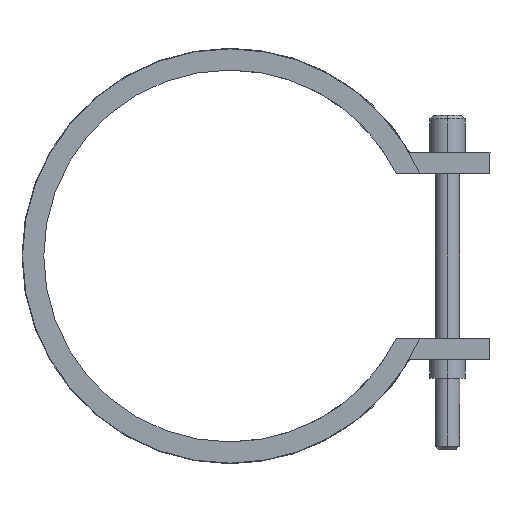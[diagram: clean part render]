
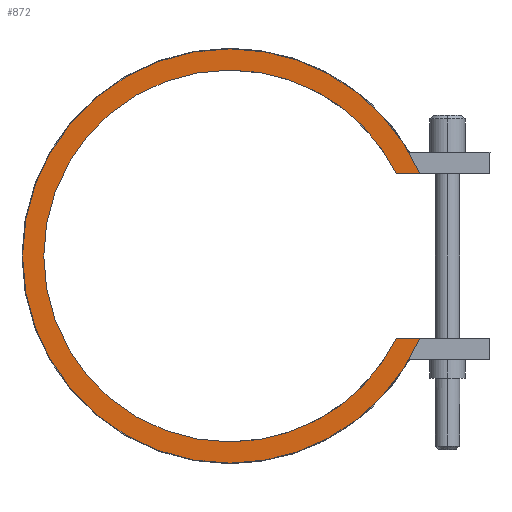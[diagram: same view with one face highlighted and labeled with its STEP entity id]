
A CAD part, left-side view. The second image highlights one B-rep face of the part: STEP entity #872.
In plain terms, the highlighted planar face has unit normal (-1, 0, 0).
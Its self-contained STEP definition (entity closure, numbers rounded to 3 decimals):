
#410=CARTESIAN_POINT('Vertex',(-30.,-31.381,-15.5)) ;
#413=CARTESIAN_POINT('Line Origine',(-30.,-33.584,-15.5)) ;
#417=CARTESIAN_POINT('Vertex',(-30.,-35.788,-15.5)) ;
#463=CARTESIAN_POINT('Vertex',(-30.,0.,-39.)) ;
#466=CARTESIAN_POINT('Axis2P3D Location',(-30.,0.,0.)) ;
#487=CARTESIAN_POINT('Vertex',(-30.,0.,39.)) ;
#490=CARTESIAN_POINT('Axis2P3D Location',(-30.,0.,0.)) ;
#502=CARTESIAN_POINT('Axis2P3D Location',(-30.,0.,0.)) ;
#506=CARTESIAN_POINT('Vertex',(-30.,-35.788,15.5)) ;
#526=CARTESIAN_POINT('Line Origine',(-30.,-33.584,15.5)) ;
#530=CARTESIAN_POINT('Vertex',(-30.,-31.381,15.5)) ;
#818=CARTESIAN_POINT('Axis2P3D Location',(-30.,0.,0.)) ;
#822=CARTESIAN_POINT('Vertex',(-30.,0.,-35.)) ;
#845=CARTESIAN_POINT('Axis2P3D Location',(-30.,0.,0.)) ;
#850=CARTESIAN_POINT('Axis2P3D Location',(-30.,0.,0.)) ;
#854=CARTESIAN_POINT('Vertex',(-30.,0.,35.)) ;
#857=CARTESIAN_POINT('Axis2P3D Location',(-30.,0.,0.)) ;
#414=DIRECTION('Vector Direction',(0.,1.,0.)) ;
#467=DIRECTION('Axis2P3D Direction',(1.,0.,-0.)) ;
#491=DIRECTION('Axis2P3D Direction',(1.,0.,-0.)) ;
#503=DIRECTION('Axis2P3D Direction',(1.,0.,-0.)) ;
#527=DIRECTION('Vector Direction',(0.,-1.,0.)) ;
#819=DIRECTION('Axis2P3D Direction',(1.,0.,-0.)) ;
#846=DIRECTION('Axis2P3D Direction',(1.,0.,0.)) ;
#847=DIRECTION('Axis2P3D XDirection',(0.,0.,-1.)) ;
#851=DIRECTION('Axis2P3D Direction',(1.,0.,0.)) ;
#858=DIRECTION('Axis2P3D Direction',(1.,0.,0.)) ;
#468=AXIS2_PLACEMENT_3D('Circle Axis2P3D',#466,#467,$) ;
#492=AXIS2_PLACEMENT_3D('Circle Axis2P3D',#490,#491,$) ;
#504=AXIS2_PLACEMENT_3D('Circle Axis2P3D',#502,#503,$) ;
#820=AXIS2_PLACEMENT_3D('Circle Axis2P3D',#818,#819,$) ;
#848=AXIS2_PLACEMENT_3D('Plane Axis2P3D',#845,#846,#847) ;
#852=AXIS2_PLACEMENT_3D('Circle Axis2P3D',#850,#851,$) ;
#859=AXIS2_PLACEMENT_3D('Circle Axis2P3D',#857,#858,$) ;
#863=ORIENTED_EDGE('',*,*,#419,.T.) ;
#864=ORIENTED_EDGE('',*,*,#824,.T.) ;
#865=ORIENTED_EDGE('',*,*,#856,.T.) ;
#866=ORIENTED_EDGE('',*,*,#861,.T.) ;
#867=ORIENTED_EDGE('',*,*,#532,.T.) ;
#868=ORIENTED_EDGE('',*,*,#508,.F.) ;
#869=ORIENTED_EDGE('',*,*,#494,.F.) ;
#870=ORIENTED_EDGE('',*,*,#470,.F.) ;
#415=VECTOR('Line Direction',#414,1.) ;
#528=VECTOR('Line Direction',#527,1.) ;
#872=ADVANCED_FACE('14070060',(#871),#849,.F.) ;
#469=CIRCLE('generated circle',#468,39.) ;
#493=CIRCLE('generated circle',#492,39.) ;
#505=CIRCLE('generated circle',#504,39.) ;
#821=CIRCLE('generated circle',#820,35.) ;
#853=CIRCLE('generated circle',#852,35.) ;
#860=CIRCLE('generated circle',#859,35.) ;
#419=EDGE_CURVE('',#418,#411,#416,.T.) ;
#470=EDGE_CURVE('',#418,#464,#469,.T.) ;
#494=EDGE_CURVE('',#464,#488,#493,.T.) ;
#508=EDGE_CURVE('',#488,#507,#505,.T.) ;
#532=EDGE_CURVE('',#531,#507,#529,.T.) ;
#824=EDGE_CURVE('',#411,#823,#821,.T.) ;
#856=EDGE_CURVE('',#823,#855,#853,.T.) ;
#861=EDGE_CURVE('',#855,#531,#860,.T.) ;
#862=EDGE_LOOP('',(#863,#864,#865,#866,#867,#868,#869,#870)) ;
#871=FACE_OUTER_BOUND('',#862,.T.) ;
#416=LINE('Line',#413,#415) ;
#529=LINE('Line',#526,#528) ;
#849=PLANE('Plane',#848) ;
#411=VERTEX_POINT('',#410) ;
#418=VERTEX_POINT('',#417) ;
#464=VERTEX_POINT('',#463) ;
#488=VERTEX_POINT('',#487) ;
#507=VERTEX_POINT('',#506) ;
#531=VERTEX_POINT('',#530) ;
#823=VERTEX_POINT('',#822) ;
#855=VERTEX_POINT('',#854) ;
